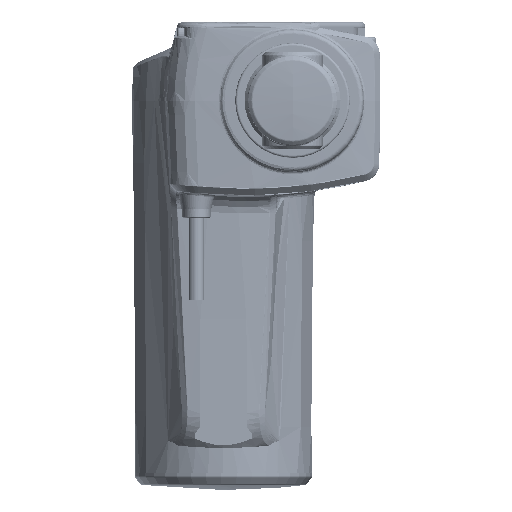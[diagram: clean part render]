
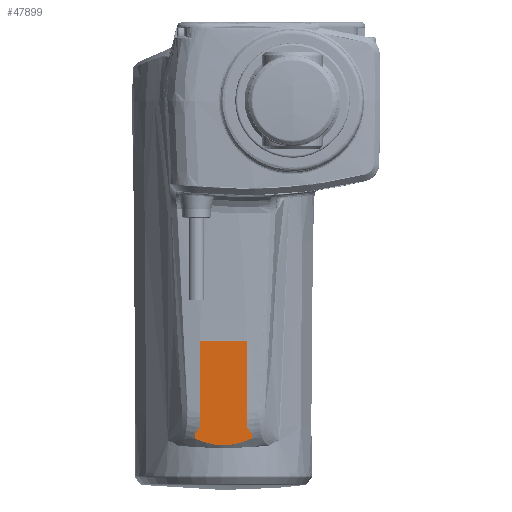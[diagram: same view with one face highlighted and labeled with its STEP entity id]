
A CAD part, left-side view. The second image highlights one B-rep face of the part: STEP entity #47899.
In plain terms, the highlighted planar face has unit normal (-1, 0, -0.009).
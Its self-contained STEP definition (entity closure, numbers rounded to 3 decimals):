
#85 = VERTEX_POINT ( 'NONE', #180186 ) ;
#19790 = EDGE_LOOP ( 'NONE', ( #58613, #167921, #100171, #137727 ) ) ;
#21549 = EDGE_CURVE ( 'NONE', #150437, #31465, #87671, .T. ) ;
#31465 = VERTEX_POINT ( 'NONE', #170288 ) ;
#34776 = VECTOR ( 'NONE', #174043, 1000. ) ;
#35685 = DIRECTION ( 'NONE',  ( 0.009, 0., -1. ) ) ;
#37513 = CARTESIAN_POINT ( 'NONE',  ( -30.201, -3.999, -113.787 ) ) ;
#38539 = DIRECTION ( 'NONE',  ( 0., -1., 0. ) ) ;
#46141 = VECTOR ( 'NONE', #76182, 1000. ) ;
#47899 = ADVANCED_FACE ( 'NONE', ( #49033 ), #172812, .F. ) ;
#49033 = FACE_OUTER_BOUND ( 'NONE', #19790, .T. ) ;
#52626 = CARTESIAN_POINT ( 'NONE',  ( -30.206, -6.381, -113.216 ) ) ;
#53909 = CARTESIAN_POINT ( 'NONE',  ( -30.217, -9.383, -111.969 ) ) ;
#58613 = ORIENTED_EDGE ( 'NONE', *, *, #21549, .T. ) ;
#59555 = EDGE_CURVE ( 'NONE', #150437, #78696, #119254, .T. ) ;
#63210 = CARTESIAN_POINT ( 'NONE',  ( -30.217, 9.383, -111.969 ) ) ;
#64050 = EDGE_CURVE ( 'NONE', #78696, #85, #148668, .T. ) ;
#66421 = CARTESIAN_POINT ( 'NONE',  ( -30.197, -0.803, -114.17 ) ) ;
#68067 = CARTESIAN_POINT ( 'NONE',  ( -30.5, -7.6, -79.5 ) ) ;
#76182 = DIRECTION ( 'NONE',  ( -0.009, 0.009, 1. ) ) ;
#78696 = VERTEX_POINT ( 'NONE', #113261 ) ;
#80927 = DIRECTION ( 'NONE',  ( 1., 0., 0.009 ) ) ;
#82750 = CARTESIAN_POINT ( 'NONE',  ( -30.198, -1.603, -114.122 ) ) ;
#86056 = LINE ( 'NONE', #152248, #46141 ) ;
#87671 = B_SPLINE_CURVE_WITH_KNOTS ( 'NONE', 3,
 ( #112941, #96590, #158201, #142438, #156259, #172015, #143087, #127292, #172674, #66421, #82750, #171355, #37513, #52626, #112272, #53909 ),
 .UNSPECIFIED., .F., .F.,
 ( 4, 2, 2, 2, 2, 2, 2, 4 ),
 ( 0., 0.005, 0.006, 0.008, 0.01, 0.012, 0.015, 0.02 ),
 .UNSPECIFIED. ) ;
#96590 = CARTESIAN_POINT ( 'NONE',  ( -30.211, 7.908, -112.66 ) ) ;
#100171 = ORIENTED_EDGE ( 'NONE', *, *, #64050, .F. ) ;
#112272 = CARTESIAN_POINT ( 'NONE',  ( -30.211, -7.907, -112.661 ) ) ;
#112941 = CARTESIAN_POINT ( 'NONE',  ( -30.217, 9.383, -111.969 ) ) ;
#113261 = CARTESIAN_POINT ( 'NONE',  ( -30.5, 9.1, -79.5 ) ) ;
#119254 = LINE ( 'NONE', #144465, #34776 ) ;
#127292 = CARTESIAN_POINT ( 'NONE',  ( -30.198, 1.606, -114.122 ) ) ;
#132504 = AXIS2_PLACEMENT_3D ( 'NONE', #187894, #80927, #35685 ) ;
#133810 = EDGE_CURVE ( 'NONE', #31465, #85, #86056, .T. ) ;
#137727 = ORIENTED_EDGE ( 'NONE', *, *, #59555, .F. ) ;
#142438 = CARTESIAN_POINT ( 'NONE',  ( -30.202, 4.418, -113.687 ) ) ;
#143087 = CARTESIAN_POINT ( 'NONE',  ( -30.199, 2.814, -113.977 ) ) ;
#143947 = VECTOR ( 'NONE', #38539, 1000. ) ;
#144465 = CARTESIAN_POINT ( 'NONE',  ( -30.501, 9.099, -79.354 ) ) ;
#148668 = LINE ( 'NONE', #68067, #143947 ) ;
#150437 = VERTEX_POINT ( 'NONE', #63210 ) ;
#152248 = CARTESIAN_POINT ( 'NONE',  ( -30.5, -9.1, -79.495 ) ) ;
#156259 = CARTESIAN_POINT ( 'NONE',  ( -30.201, 4.021, -113.771 ) ) ;
#158201 = CARTESIAN_POINT ( 'NONE',  ( -30.206, 6.388, -113.213 ) ) ;
#167921 = ORIENTED_EDGE ( 'NONE', *, *, #133810, .T. ) ;
#170288 = CARTESIAN_POINT ( 'NONE',  ( -30.217, -9.383, -111.969 ) ) ;
#171355 = CARTESIAN_POINT ( 'NONE',  ( -30.2, -3.201, -113.931 ) ) ;
#172015 = CARTESIAN_POINT ( 'NONE',  ( -30.2, 3.219, -113.916 ) ) ;
#172674 = CARTESIAN_POINT ( 'NONE',  ( -30.197, 0.802, -114.17 ) ) ;
#172812 = PLANE ( 'NONE',  #132504 ) ;
#174043 = DIRECTION ( 'NONE',  ( -0.009, -0.009, 1. ) ) ;
#180186 = CARTESIAN_POINT ( 'NONE',  ( -30.5, -9.1, -79.5 ) ) ;
#187894 = CARTESIAN_POINT ( 'NONE',  ( -30.5, -7.6, -79.5 ) ) ;
